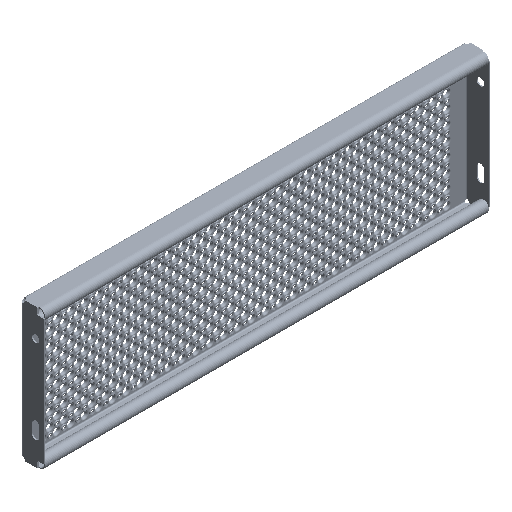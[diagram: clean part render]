
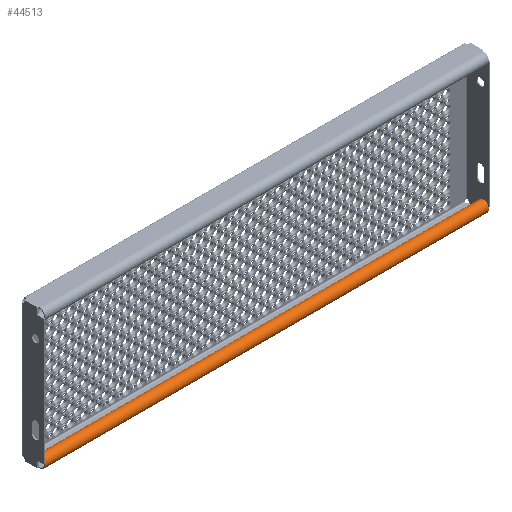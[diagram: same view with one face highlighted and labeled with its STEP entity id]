
A CAD part, isometric view. The second image highlights one B-rep face of the part: STEP entity #44513.
In plain terms, the highlighted cylindrical face has radius 10 mm (diameter 20 mm), a partial arc.
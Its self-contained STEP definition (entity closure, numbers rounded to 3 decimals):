
#12328 = CARTESIAN_POINT ( 'NONE',  ( -397.99, -31.998, -115. ) ) ;
#17962 = VECTOR ( 'NONE', #265153, 1000. ) ;
#43535 = AXIS2_PLACEMENT_3D ( 'NONE', #184209, #52975, #165469 ) ;
#43669 = LINE ( 'NONE', #154358, #17962 ) ;
#44513 = ADVANCED_FACE ( 'NONE', ( #48765 ), #132287, .T. ) ;
#48765 = FACE_OUTER_BOUND ( 'NONE', #136846, .T. ) ;
#52975 = DIRECTION ( 'NONE',  ( 1., 0., 0. ) ) ;
#56519 = AXIS2_PLACEMENT_3D ( 'NONE', #219315, #248356, #159494 ) ;
#59176 = CIRCLE ( 'NONE', #262111, 10. ) ;
#65032 = DIRECTION ( 'NONE',  ( -1., 0., 0. ) ) ;
#73291 = EDGE_CURVE ( 'NONE', #186823, #209203, #89926, .T. ) ;
#81669 = CARTESIAN_POINT ( 'NONE',  ( 397.99, -24.337, -121.428 ) ) ;
#89926 = CIRCLE ( 'NONE', #43535, 10. ) ;
#90348 = EDGE_CURVE ( 'NONE', #117426, #163354, #59176, .T. ) ;
#103314 = VECTOR ( 'NONE', #332186, 1000. ) ;
#117426 = VERTEX_POINT ( 'NONE', #123603 ) ;
#123603 = CARTESIAN_POINT ( 'NONE',  ( -397.99, -31.998, -125. ) ) ;
#132287 = CYLINDRICAL_SURFACE ( 'NONE', #56519, 10. ) ;
#136846 = EDGE_LOOP ( 'NONE', ( #224954, #244924, #257306, #250727 ) ) ;
#148477 = DIRECTION ( 'NONE',  ( 0., 0., -1. ) ) ;
#154358 = CARTESIAN_POINT ( 'NONE',  ( 397.99, -31.998, -125. ) ) ;
#159494 = DIRECTION ( 'NONE',  ( 0., 0.766, -0.643 ) ) ;
#163354 = VERTEX_POINT ( 'NONE', #207071 ) ;
#165469 = DIRECTION ( 'NONE',  ( 0., 0., -1. ) ) ;
#181805 = CARTESIAN_POINT ( 'NONE',  ( 397.99, -31.998, -125. ) ) ;
#184209 = CARTESIAN_POINT ( 'NONE',  ( 397.99, -31.998, -115. ) ) ;
#186823 = VERTEX_POINT ( 'NONE', #247345 ) ;
#207071 = CARTESIAN_POINT ( 'NONE',  ( -397.99, -24.337, -121.428 ) ) ;
#209203 = VERTEX_POINT ( 'NONE', #181805 ) ;
#219315 = CARTESIAN_POINT ( 'NONE',  ( 397.99, -31.998, -115. ) ) ;
#224954 = ORIENTED_EDGE ( 'NONE', *, *, #261943, .F. ) ;
#244924 = ORIENTED_EDGE ( 'NONE', *, *, #73291, .F. ) ;
#247345 = CARTESIAN_POINT ( 'NONE',  ( 397.99, -24.337, -121.428 ) ) ;
#248356 = DIRECTION ( 'NONE',  ( 1., 0., 0. ) ) ;
#250727 = ORIENTED_EDGE ( 'NONE', *, *, #90348, .F. ) ;
#257306 = ORIENTED_EDGE ( 'NONE', *, *, #263456, .F. ) ;
#261943 = EDGE_CURVE ( 'NONE', #209203, #117426, #43669, .T. ) ;
#262111 = AXIS2_PLACEMENT_3D ( 'NONE', #12328, #65032, #148477 ) ;
#263456 = EDGE_CURVE ( 'NONE', #163354, #186823, #330394, .T. ) ;
#265153 = DIRECTION ( 'NONE',  ( -1., 0., 0. ) ) ;
#330394 = LINE ( 'NONE', #81669, #103314 ) ;
#332186 = DIRECTION ( 'NONE',  ( 1., 0., 0. ) ) ;
